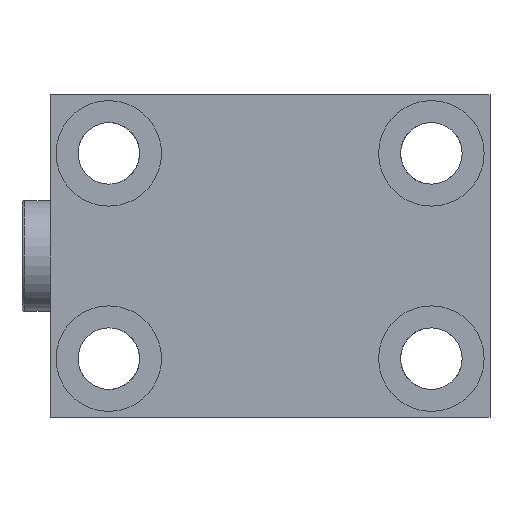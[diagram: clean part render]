
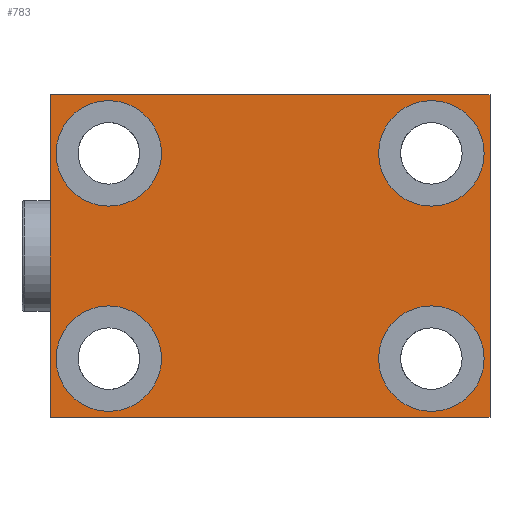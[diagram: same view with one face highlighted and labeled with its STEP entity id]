
A CAD part, front view. The second image highlights one B-rep face of the part: STEP entity #783.
In plain terms, the highlighted planar face has unit normal (0, -1, 0).
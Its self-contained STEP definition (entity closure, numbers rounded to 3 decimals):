
#24 = EDGE_CURVE ( 'NONE', #3074, #1433, #1145, .T. ) ;
#35 = CARTESIAN_POINT ( 'NONE',  ( 27.5, 0., -17.5 ) ) ;
#72 = FACE_BOUND ( 'NONE', #1364, .T. ) ;
#84 = DIRECTION ( 'NONE',  ( 0., 0., -1. ) ) ;
#106 = DIRECTION ( 'NONE',  ( 0., 0., -1. ) ) ;
#112 = CARTESIAN_POINT ( 'NONE',  ( 27.5, 0., 26.5 ) ) ;
#115 = CIRCLE ( 'NONE', #1767, 9. ) ;
#139 = DIRECTION ( 'NONE',  ( 0., -1., 0. ) ) ;
#142 = VERTEX_POINT ( 'NONE', #195 ) ;
#177 = CARTESIAN_POINT ( 'NONE',  ( 27.5, 0., 17.5 ) ) ;
#195 = CARTESIAN_POINT ( 'NONE',  ( -37.5, 0., 27.5 ) ) ;
#221 = LINE ( 'NONE', #1128, #2033 ) ;
#376 = DIRECTION ( 'NONE',  ( 0., -1., 0. ) ) ;
#400 = ORIENTED_EDGE ( 'NONE', *, *, #1459, .F. ) ;
#415 = DIRECTION ( 'NONE',  ( 0., 1., 0. ) ) ;
#427 = CARTESIAN_POINT ( 'NONE',  ( -27.5, 0., -17.5 ) ) ;
#432 = AXIS2_PLACEMENT_3D ( 'NONE', #983, #1959, #3927 ) ;
#460 = EDGE_LOOP ( 'NONE', ( #4214, #3222 ) ) ;
#510 = CARTESIAN_POINT ( 'NONE',  ( 37.5, 0., 27.5 ) ) ;
#595 = ORIENTED_EDGE ( 'NONE', *, *, #1540, .F. ) ;
#647 = CARTESIAN_POINT ( 'NONE',  ( -27.5, 0., -8.5 ) ) ;
#677 = ORIENTED_EDGE ( 'NONE', *, *, #2122, .F. ) ;
#766 = CARTESIAN_POINT ( 'NONE',  ( -27.5, 0., 26.5 ) ) ;
#783 = ADVANCED_FACE ( 'NONE', ( #72, #839, #3347, #2680, #1193 ), #2694, .F. ) ;
#839 = FACE_BOUND ( 'NONE', #1989, .T. ) ;
#867 = EDGE_CURVE ( 'NONE', #142, #2748, #221, .T. ) ;
#899 = EDGE_CURVE ( 'NONE', #2748, #2452, #1035, .T. ) ;
#973 = CARTESIAN_POINT ( 'NONE',  ( 27.5, 0., 17.5 ) ) ;
#983 = CARTESIAN_POINT ( 'NONE',  ( -27.5, 0., 17.5 ) ) ;
#1035 = LINE ( 'NONE', #4062, #3762 ) ;
#1068 = DIRECTION ( 'NONE',  ( 0., 0., -1. ) ) ;
#1077 = VECTOR ( 'NONE', #1748, 1000. ) ;
#1109 = EDGE_LOOP ( 'NONE', ( #3614, #1878, #595, #3554 ) ) ;
#1128 = CARTESIAN_POINT ( 'NONE',  ( -37.5, 0., 27.5 ) ) ;
#1145 = CIRCLE ( 'NONE', #2944, 9. ) ;
#1191 = EDGE_CURVE ( 'NONE', #1433, #3074, #115, .T. ) ;
#1193 = FACE_OUTER_BOUND ( 'NONE', #1109, .T. ) ;
#1247 = ORIENTED_EDGE ( 'NONE', *, *, #2998, .F. ) ;
#1269 = ORIENTED_EDGE ( 'NONE', *, *, #2339, .F. ) ;
#1319 = VERTEX_POINT ( 'NONE', #3656 ) ;
#1364 = EDGE_LOOP ( 'NONE', ( #1531, #1247 ) ) ;
#1413 = ORIENTED_EDGE ( 'NONE', *, *, #1686, .F. ) ;
#1433 = VERTEX_POINT ( 'NONE', #112 ) ;
#1439 = CARTESIAN_POINT ( 'NONE',  ( -27.5, 0., -26.5 ) ) ;
#1459 = EDGE_CURVE ( 'NONE', #3060, #3881, #3958, .T. ) ;
#1471 = DIRECTION ( 'NONE',  ( 0., 0., -1. ) ) ;
#1531 = ORIENTED_EDGE ( 'NONE', *, *, #2549, .F. ) ;
#1534 = VERTEX_POINT ( 'NONE', #3770 ) ;
#1540 = EDGE_CURVE ( 'NONE', #1319, #142, #3388, .T. ) ;
#1616 = DIRECTION ( 'NONE',  ( 0., -1., 0. ) ) ;
#1686 = EDGE_CURVE ( 'NONE', #1534, #3045, #3594, .T. ) ;
#1691 = VERTEX_POINT ( 'NONE', #647 ) ;
#1720 = AXIS2_PLACEMENT_3D ( 'NONE', #4175, #3208, #3529 ) ;
#1737 = DIRECTION ( 'NONE',  ( 0., 0., 1. ) ) ;
#1748 = DIRECTION ( 'NONE',  ( -1., 0., 0. ) ) ;
#1767 = AXIS2_PLACEMENT_3D ( 'NONE', #973, #1616, #4219 ) ;
#1770 = DIRECTION ( 'NONE',  ( 0., -1., 0. ) ) ;
#1877 = CIRCLE ( 'NONE', #2613, 9. ) ;
#1878 = ORIENTED_EDGE ( 'NONE', *, *, #867, .F. ) ;
#1959 = DIRECTION ( 'NONE',  ( 0., -1., 0. ) ) ;
#1974 = DIRECTION ( 'NONE',  ( 0., 0., -1. ) ) ;
#1989 = EDGE_LOOP ( 'NONE', ( #1413, #1269 ) ) ;
#2014 = CARTESIAN_POINT ( 'NONE',  ( 27.5, 0., -17.5 ) ) ;
#2033 = VECTOR ( 'NONE', #3790, 1000. ) ;
#2057 = CARTESIAN_POINT ( 'NONE',  ( -37.5, 0., -27.5 ) ) ;
#2061 = DIRECTION ( 'NONE',  ( 0., -1., 0. ) ) ;
#2095 = CARTESIAN_POINT ( 'NONE',  ( -27.5, 0., -17.5 ) ) ;
#2122 = EDGE_CURVE ( 'NONE', #3881, #3060, #3297, .T. ) ;
#2339 = EDGE_CURVE ( 'NONE', #3045, #1534, #2860, .T. ) ;
#2419 = DIRECTION ( 'NONE',  ( 0., 0., 1. ) ) ;
#2452 = VERTEX_POINT ( 'NONE', #2807 ) ;
#2458 = DIRECTION ( 'NONE',  ( 0., 0., -1. ) ) ;
#2549 = EDGE_CURVE ( 'NONE', #3228, #1691, #1877, .T. ) ;
#2575 = EDGE_CURVE ( 'NONE', #2452, #1319, #3597, .T. ) ;
#2613 = AXIS2_PLACEMENT_3D ( 'NONE', #427, #2061, #1068 ) ;
#2680 = FACE_BOUND ( 'NONE', #3519, .T. ) ;
#2694 = PLANE ( 'NONE',  #4227 ) ;
#2748 = VERTEX_POINT ( 'NONE', #510 ) ;
#2807 = CARTESIAN_POINT ( 'NONE',  ( 37.5, 0., -27.5 ) ) ;
#2860 = CIRCLE ( 'NONE', #3513, 9. ) ;
#2944 = AXIS2_PLACEMENT_3D ( 'NONE', #177, #1770, #2458 ) ;
#2983 = DIRECTION ( 'NONE',  ( 0., -1., 0. ) ) ;
#2996 = CARTESIAN_POINT ( 'NONE',  ( -27.5, 0., 8.5 ) ) ;
#2998 = EDGE_CURVE ( 'NONE', #1691, #3228, #3365, .T. ) ;
#3018 = CARTESIAN_POINT ( 'NONE',  ( 0., 0., 0. ) ) ;
#3045 = VERTEX_POINT ( 'NONE', #4047 ) ;
#3060 = VERTEX_POINT ( 'NONE', #766 ) ;
#3074 = VERTEX_POINT ( 'NONE', #4094 ) ;
#3131 = AXIS2_PLACEMENT_3D ( 'NONE', #35, #2983, #1974 ) ;
#3208 = DIRECTION ( 'NONE',  ( 0., -1., 0. ) ) ;
#3222 = ORIENTED_EDGE ( 'NONE', *, *, #1191, .F. ) ;
#3228 = VERTEX_POINT ( 'NONE', #1439 ) ;
#3297 = CIRCLE ( 'NONE', #1720, 9. ) ;
#3347 = FACE_BOUND ( 'NONE', #460, .T. ) ;
#3365 = CIRCLE ( 'NONE', #3575, 9. ) ;
#3388 = LINE ( 'NONE', #2057, #3644 ) ;
#3513 = AXIS2_PLACEMENT_3D ( 'NONE', #2014, #376, #84 ) ;
#3519 = EDGE_LOOP ( 'NONE', ( #677, #400 ) ) ;
#3529 = DIRECTION ( 'NONE',  ( 0., 0., -1. ) ) ;
#3554 = ORIENTED_EDGE ( 'NONE', *, *, #2575, .F. ) ;
#3575 = AXIS2_PLACEMENT_3D ( 'NONE', #2095, #139, #106 ) ;
#3594 = CIRCLE ( 'NONE', #3131, 9. ) ;
#3597 = LINE ( 'NONE', #4044, #1077 ) ;
#3614 = ORIENTED_EDGE ( 'NONE', *, *, #899, .F. ) ;
#3644 = VECTOR ( 'NONE', #2419, 1000. ) ;
#3656 = CARTESIAN_POINT ( 'NONE',  ( -37.5, 0., -27.5 ) ) ;
#3762 = VECTOR ( 'NONE', #1471, 1000. ) ;
#3770 = CARTESIAN_POINT ( 'NONE',  ( 27.5, 0., -26.5 ) ) ;
#3790 = DIRECTION ( 'NONE',  ( 1., 0., 0. ) ) ;
#3881 = VERTEX_POINT ( 'NONE', #2996 ) ;
#3927 = DIRECTION ( 'NONE',  ( 0., 0., -1. ) ) ;
#3958 = CIRCLE ( 'NONE', #432, 9. ) ;
#4044 = CARTESIAN_POINT ( 'NONE',  ( -37.5, 0., -27.5 ) ) ;
#4047 = CARTESIAN_POINT ( 'NONE',  ( 27.5, 0., -8.5 ) ) ;
#4062 = CARTESIAN_POINT ( 'NONE',  ( 37.5, 0., -27.5 ) ) ;
#4094 = CARTESIAN_POINT ( 'NONE',  ( 27.5, 0., 8.5 ) ) ;
#4175 = CARTESIAN_POINT ( 'NONE',  ( -27.5, 0., 17.5 ) ) ;
#4214 = ORIENTED_EDGE ( 'NONE', *, *, #24, .F. ) ;
#4219 = DIRECTION ( 'NONE',  ( 0., 0., -1. ) ) ;
#4227 = AXIS2_PLACEMENT_3D ( 'NONE', #3018, #415, #1737 ) ;
